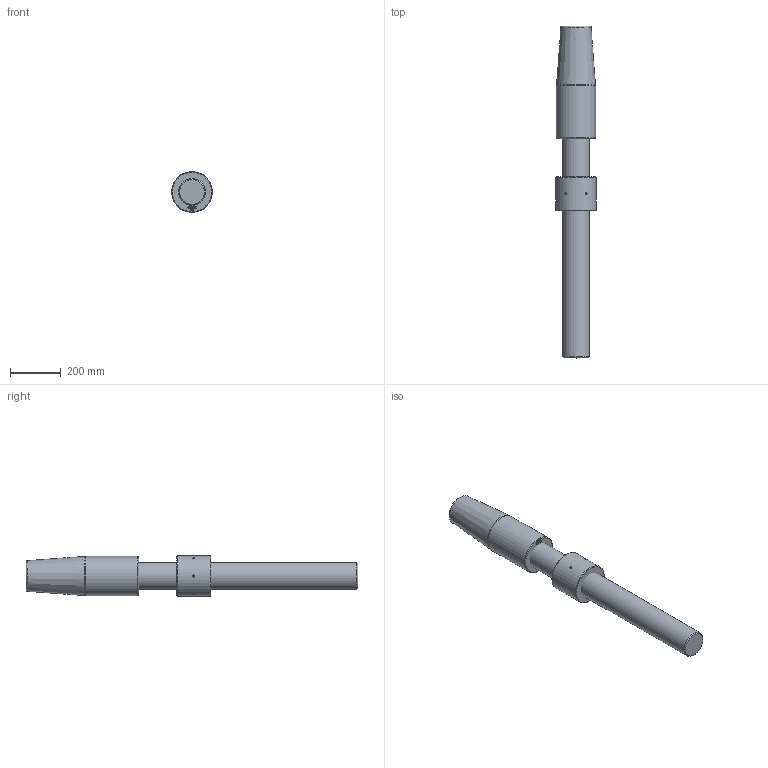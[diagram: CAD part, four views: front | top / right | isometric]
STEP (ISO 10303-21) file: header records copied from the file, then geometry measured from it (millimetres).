
FILE_DESCRIPTION(/* description */ (''),/* implementation_level */ '2;1');
FILE_NAME(/* name */ 'C:\Users\ranca\Desktop\CYM\ARRANGEMENT\CYM052 52 061 0.stp',/* time_stamp */ '2021-04-22T18:59:39+02:00',/* author */ ('ranca'),/* organization */ (''),/* preprocessor_version */ 'ST-DEVELOPER v16.13',/* originating_system */ 'Autodesk Inventor 2018',/* authorisation */ '');
FILE_SCHEMA (('AUTOMOTIVE_DESIGN { 1 0 10303 214 3 1 1 }'));
Length unit declared in the file: millimetre
Products named in the file (4): CYM052-52-061-0; CYM012-52-061-0_ROD; CYC052 52 065 0_CYL SOK_RH; CYM052-41-051-0
Assembly tree (3 placements, depth 2):
  CYM052-52-061-0
    CYM012-52-061-0_ROD
    CYC052 52 065 0_CYL SOK_RH
    CYM052-41-051-0
Bounding box: 160 x 1309 x 160 mm (x, y, z)
Volume: 18816851.9 mm3; surface area: 686288.5 mm2
Topology: 3 solids, 3 shells, 529 faces, 1435 edges, 954 vertices
Faces by surface type: bspline 284, plane 223, cone 11, cylinder 9, torus 2
Full cylindrical faces by diameter (mm): 8 x6, 105 x1, 155 x1, 160 x1
Entity records: 18184 total; most frequent: CARTESIAN_POINT 6807, ORIENTED_EDGE 2812, EDGE_CURVE 1406, DIRECTION 1353, VERTEX_POINT 948, LINE 805, VECTOR 805, EDGE_LOOP 594
